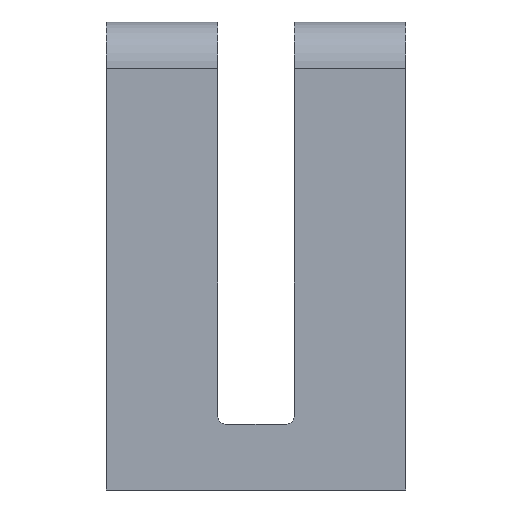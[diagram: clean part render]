
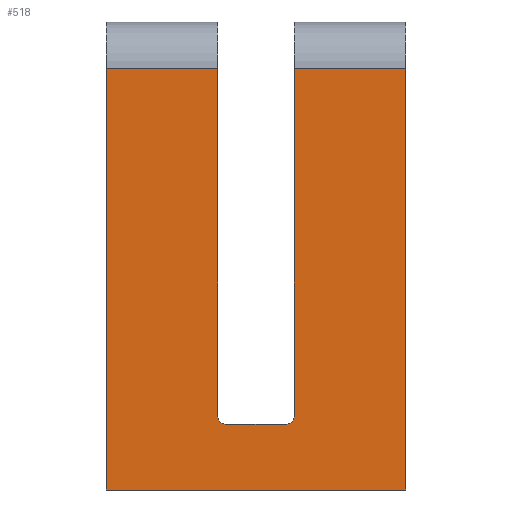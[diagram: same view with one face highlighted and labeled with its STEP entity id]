
A CAD part, left-side view. The second image highlights one B-rep face of the part: STEP entity #518.
In plain terms, the highlighted planar face has unit normal (-1, 0, 0).
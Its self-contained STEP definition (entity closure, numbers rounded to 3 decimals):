
#421=AXIS2_PLACEMENT_3D('Circle Axis2P3D',#419,#420,$) ;
#485=AXIS2_PLACEMENT_3D('Plane Axis2P3D',#482,#483,#484) ;
#489=AXIS2_PLACEMENT_3D('Circle Axis2P3D',#487,#488,$) ;
#98=CARTESIAN_POINT('Vertex',(-5.,32.,18.371)) ;
#114=CARTESIAN_POINT('Vertex',(-5.,32.,-26.629)) ;
#117=CARTESIAN_POINT('Line Origine',(-5.,32.,-4.129)) ;
#173=CARTESIAN_POINT('Line Origine',(-5.,16.,18.371)) ;
#177=CARTESIAN_POINT('Vertex',(-5.,20.1,18.371)) ;
#208=CARTESIAN_POINT('Vertex',(-5.,0.,-26.629)) ;
#211=CARTESIAN_POINT('Line Origine',(-5.,16.,-26.629)) ;
#271=CARTESIAN_POINT('Line Origine',(-5.,0.,-4.129)) ;
#275=CARTESIAN_POINT('Vertex',(-5.,0.,18.371)) ;
#353=CARTESIAN_POINT('Line Origine',(-5.,16.,18.371)) ;
#357=CARTESIAN_POINT('Vertex',(-5.,11.9,18.371)) ;
#388=CARTESIAN_POINT('Vertex',(-5.,20.1,-18.629)) ;
#398=CARTESIAN_POINT('Line Origine',(-5.,20.1,-0.129)) ;
#419=CARTESIAN_POINT('Axis2P3D Location',(-5.,19.1,-18.629)) ;
#423=CARTESIAN_POINT('Vertex',(-5.,19.1,-19.629)) ;
#482=CARTESIAN_POINT('Axis2P3D Location',(-5.,0.,-26.629)) ;
#487=CARTESIAN_POINT('Axis2P3D Location',(-5.,12.9,-18.629)) ;
#491=CARTESIAN_POINT('Vertex',(-5.,11.9,-18.629)) ;
#493=CARTESIAN_POINT('Vertex',(-5.,12.9,-19.629)) ;
#496=CARTESIAN_POINT('Line Origine',(-5.,16.,-19.629)) ;
#501=CARTESIAN_POINT('Line Origine',(-5.,11.9,-0.129)) ;
#118=DIRECTION('Vector Direction',(0.,0.,1.)) ;
#174=DIRECTION('Vector Direction',(0.,1.,0.)) ;
#212=DIRECTION('Vector Direction',(0.,1.,0.)) ;
#272=DIRECTION('Vector Direction',(0.,0.,1.)) ;
#354=DIRECTION('Vector Direction',(0.,1.,0.)) ;
#399=DIRECTION('Vector Direction',(0.,0.,-1.)) ;
#420=DIRECTION('Axis2P3D Direction',(1.,0.,0.)) ;
#483=DIRECTION('Axis2P3D Direction',(-1.,0.,0.)) ;
#484=DIRECTION('Axis2P3D XDirection',(0.,0.,1.)) ;
#488=DIRECTION('Axis2P3D Direction',(-1.,0.,0.)) ;
#497=DIRECTION('Vector Direction',(0.,-1.,0.)) ;
#502=DIRECTION('Vector Direction',(0.,0.,-1.)) ;
#119=VECTOR('Line Direction',#118,1.) ;
#175=VECTOR('Line Direction',#174,1.) ;
#213=VECTOR('Line Direction',#212,1.) ;
#273=VECTOR('Line Direction',#272,1.) ;
#355=VECTOR('Line Direction',#354,1.) ;
#400=VECTOR('Line Direction',#399,1.) ;
#498=VECTOR('Line Direction',#497,1.) ;
#503=VECTOR('Line Direction',#502,1.) ;
#507=ORIENTED_EDGE('',*,*,#495,.T.) ;
#508=ORIENTED_EDGE('',*,*,#500,.F.) ;
#509=ORIENTED_EDGE('',*,*,#425,.T.) ;
#510=ORIENTED_EDGE('',*,*,#402,.F.) ;
#511=ORIENTED_EDGE('',*,*,#179,.T.) ;
#512=ORIENTED_EDGE('',*,*,#121,.F.) ;
#513=ORIENTED_EDGE('',*,*,#215,.F.) ;
#514=ORIENTED_EDGE('',*,*,#277,.T.) ;
#515=ORIENTED_EDGE('',*,*,#359,.T.) ;
#516=ORIENTED_EDGE('',*,*,#505,.T.) ;
#518=ADVANCED_FACE('\X2\96F64EF651E04F554F53\X0\',(#517),#486,.T.) ;
#422=CIRCLE('generated circle',#421,1.) ;
#490=CIRCLE('generated circle',#489,1.) ;
#121=EDGE_CURVE('',#115,#99,#120,.T.) ;
#179=EDGE_CURVE('',#178,#99,#176,.T.) ;
#215=EDGE_CURVE('',#209,#115,#214,.T.) ;
#277=EDGE_CURVE('',#209,#276,#274,.T.) ;
#359=EDGE_CURVE('',#276,#358,#356,.T.) ;
#402=EDGE_CURVE('',#178,#389,#401,.T.) ;
#425=EDGE_CURVE('',#424,#389,#422,.T.) ;
#495=EDGE_CURVE('',#492,#494,#490,.F.) ;
#500=EDGE_CURVE('',#424,#494,#499,.T.) ;
#505=EDGE_CURVE('',#358,#492,#504,.T.) ;
#506=EDGE_LOOP('',(#507,#508,#509,#510,#511,#512,#513,#514,#515,#516)) ;
#517=FACE_OUTER_BOUND('',#506,.T.) ;
#120=LINE('Line',#117,#119) ;
#176=LINE('Line',#173,#175) ;
#214=LINE('Line',#211,#213) ;
#274=LINE('Line',#271,#273) ;
#356=LINE('Line',#353,#355) ;
#401=LINE('Line',#398,#400) ;
#499=LINE('Line',#496,#498) ;
#504=LINE('Line',#501,#503) ;
#486=PLANE('Plane',#485) ;
#99=VERTEX_POINT('',#98) ;
#115=VERTEX_POINT('',#114) ;
#178=VERTEX_POINT('',#177) ;
#209=VERTEX_POINT('',#208) ;
#276=VERTEX_POINT('',#275) ;
#358=VERTEX_POINT('',#357) ;
#389=VERTEX_POINT('',#388) ;
#424=VERTEX_POINT('',#423) ;
#492=VERTEX_POINT('',#491) ;
#494=VERTEX_POINT('',#493) ;
